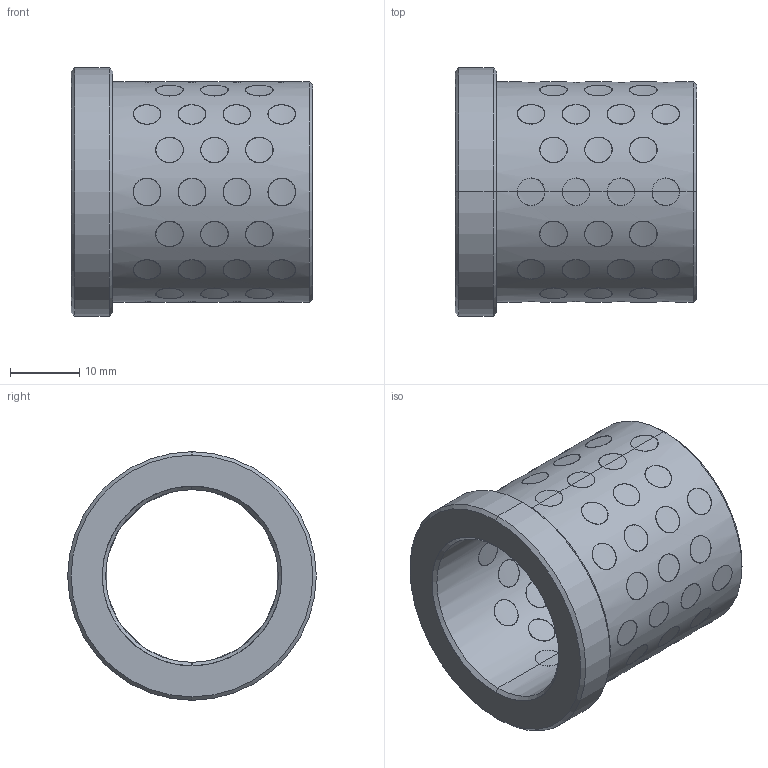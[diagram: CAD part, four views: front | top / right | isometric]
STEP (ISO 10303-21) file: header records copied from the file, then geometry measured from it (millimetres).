
FILE_DESCRIPTION(('CATIA V5 STEP Exchange'),'2;1');
FILE_NAME('C:\Users\Utente\Desktop\3D files G401\G4012535.stp','2020-04-22T08:36:40+00:00',('none'),('none'),'CATIA Version 5 Release 20 GA (IN-10)','CATIA V5 STEP AP203','none');
FILE_SCHEMA(('CONFIG_CONTROL_DESIGN'));
Length unit declared in the file: millimetre
Products named in the file (1): G4012535
Bounding box: 35 x 36 x 36 mm (x, y, z)
Surface area: 12139.4 mm2 (no closed solid volume)
Topology: 0 solids, 371 shells, 371 faces, 1612 edges, 1612 vertices
Faces by surface type: cylinder 358, revolution 10, plane 3
Entity records: 32613 total; most frequent: CARTESIAN_POINT 21419, ORIENTED_EDGE 1612, EDGE_CURVE 1612, VERTEX_POINT 1612, DIRECTION 1313, B_SPLINE_CURVE_WITH_KNOTS 1041, VECTOR 544, LINE 544
